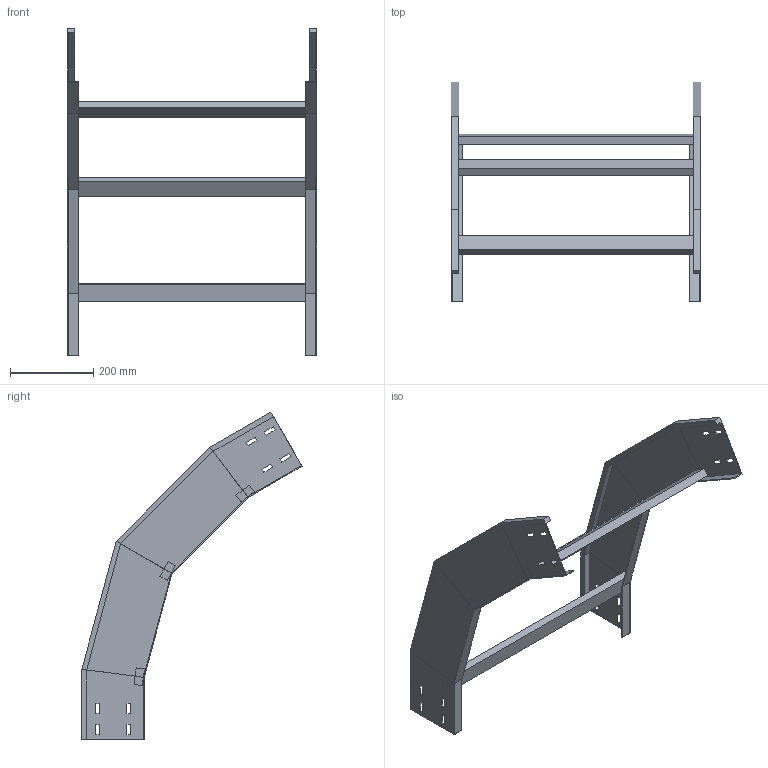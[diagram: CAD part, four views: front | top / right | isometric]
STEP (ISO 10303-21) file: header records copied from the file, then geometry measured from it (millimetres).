
FILE_DESCRIPTION (( 'STEP AP214' ), '1' );
FILE_NAME ('41J5F600.step', '2025-02-21T16:22:42', ( '' ), ( '' ), 'SwSTEP 2.0', 'SolidWorks 2023', '' );
FILE_SCHEMA (( 'AUTOMOTIVE_DESIGN' ));
Length unit declared in the file: millimetre
Products named in the file (3): TRAVERSINO_600; LONGH.DISCESA_60°_H150_R500; 41J5F600
Assembly tree (5 placements, depth 2):
  41J5F600
    LONGH.DISCESA_60°_H150_R500  x2
    TRAVERSINO_600  x3
Bounding box: 600 x 530.08 x 788.22 mm (x, y, z)
Volume: 2434463.6 mm3; surface area: 908196.7 mm2
Topology: 5 solids, 5 shells, 150 faces, 372 edges, 232 vertices
Faces by surface type: plane 150
Entity records: 2216 total; most frequent: CARTESIAN_POINT 372, ORIENTED_EDGE 360, DIRECTION 340, LINE 180, VECTOR 180, EDGE_CURVE 180, VERTEX_POINT 112, EDGE_LOOP 88
